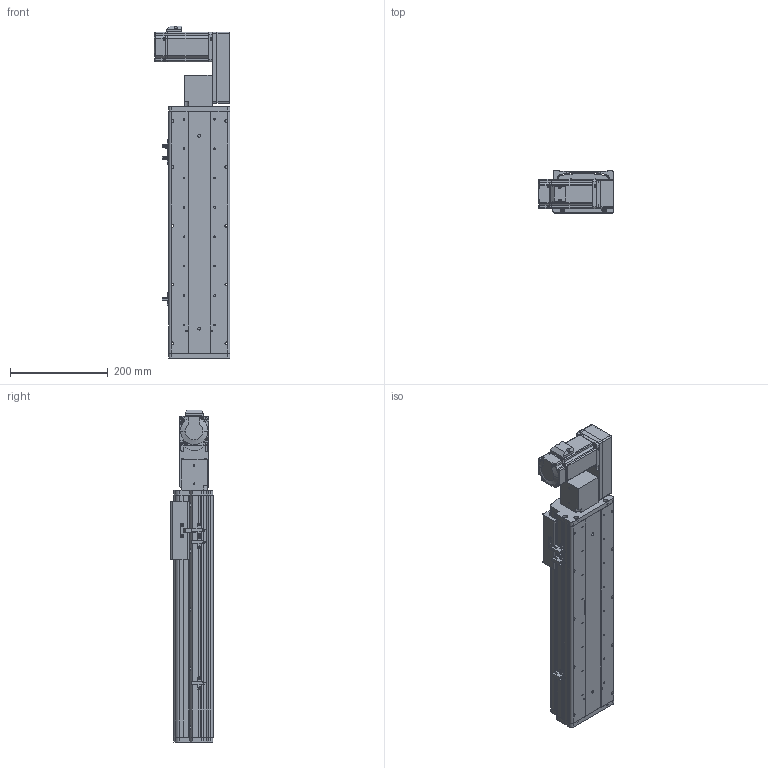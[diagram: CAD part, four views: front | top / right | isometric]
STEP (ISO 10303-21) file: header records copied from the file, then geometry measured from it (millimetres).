
FILE_DESCRIPTION (( 'STEP AP214' ), '1' );
FILE_NAME ('KSD125B-S300-MLB-CM.STEP', '2017-10-21T01:33:19', ( '微软用户' ), ( '微软中国' ), 'SwSTEP 2.0', 'SolidWorks 2014', '' );
FILE_SCHEMA (( 'AUTOMOTIVE_DESIGN' ));
Length unit declared in the file: millimetre
Products named in the file (18): 100宽马达安装板同步带左; KSD125模组300行程同步带-防尘盖; 125模组300行程同步带-底板; KSD125模组同步带-防撞垫2; 覜茼え68遵圉猾敕; U倰嫖萇假蚾璃; U倰嫖萇EEㄜSX672; KSD125模组同步带-防撞垫1; 前端板-125宽模组同步带; 125模组同步带-尾端板1; KSD125模组同步带-滑动座1; KSD125B-S300-MLB-CM; MHMD042G1CA_2_03; 肣翐M4X25樓6; 悵誘欶奻狟殏; HTPA30S3M150_A_H6_a佪裝蚚; HTPA30S3M150_A_H6_a萇儂蚚; 100宽马达安装板连板上下折丝杆同步带
Assembly tree (22 placements, depth 2):
  KSD125B-S300-MLB-CM
    KSD125模组同步带-滑动座1
    125模组同步带-尾端板1
    前端板-125宽模组同步带
    KSD125模组同步带-防撞垫1
    U倰嫖萇EEㄜSX672  x3
    U倰嫖萇假蚾璃  x3
    覜茼え68遵圉猾敕
    KSD125模组同步带-防撞垫2
    125模组300行程同步带-底板
    KSD125模组300行程同步带-防尘盖
    100宽马达安装板同步带左
    100宽马达安装板连板上下折丝杆同步带
    HTPA30S3M150_A_H6_a萇儂蚚
    HTPA30S3M150_A_H6_a佪裝蚚
    悵誘欶奻狟殏
    肣翐M4X25樓6  x2
    MHMD042G1CA_2_03
Bounding box: 155 x 86 x 678 mm (x, y, z)
Volume: 2058058 mm3; surface area: 734069.1 mm2
Topology: 21 solids, 24 shells, 2247 faces, 6483 edges, 4280 vertices
Faces by surface type: cylinder 1380, plane 736, cone 109, bspline 22
Entity records: 78899 total; most frequent: CARTESIAN_POINT 15595, DIRECTION 12274, ORIENTED_EDGE 11414, EDGE_CURVE 5785, AXIS2_PLACEMENT_3D 4726, VERTEX_POINT 3851, VECTOR 2822, LINE 2822
